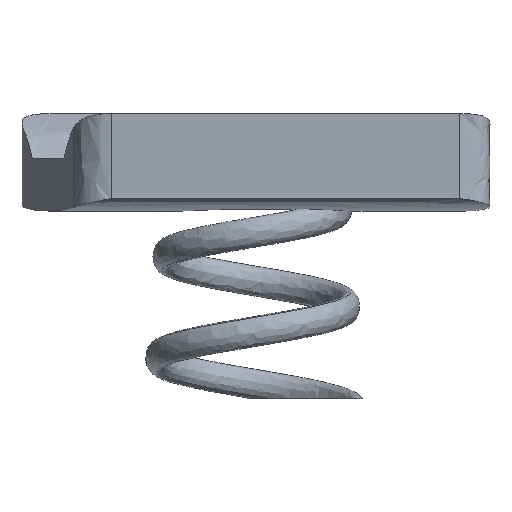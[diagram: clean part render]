
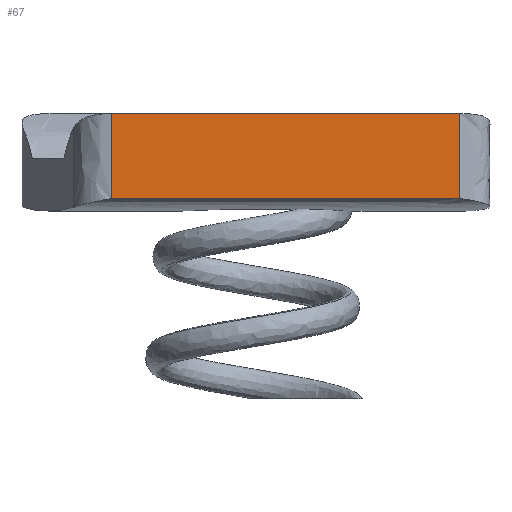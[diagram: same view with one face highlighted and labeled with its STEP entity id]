
A CAD part, front view. The second image highlights one B-rep face of the part: STEP entity #67.
In plain terms, the highlighted planar face has unit normal (0, -1, 0).
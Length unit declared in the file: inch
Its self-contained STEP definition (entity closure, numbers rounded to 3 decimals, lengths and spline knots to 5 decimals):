
#67=ADVANCED_FACE('',(#148),#149,.T.);
#148=FACE_OUTER_BOUND('',#273,.T.);
#149=PLANE('',#274);
#273=EDGE_LOOP('',(#1895,#1896,#1897,#1898));
#274=AXIS2_PLACEMENT_3D('',#1899,#1900,#1901);
#1895=ORIENTED_EDGE('',*,*,#2114,.T.);
#1896=ORIENTED_EDGE('',*,*,#2082,.T.);
#1897=ORIENTED_EDGE('',*,*,#2115,.F.);
#1898=ORIENTED_EDGE('',*,*,#2116,.F.);
#1899=CARTESIAN_POINT('',(-0.14909,0.,0.07114));
#1900=DIRECTION('',(0.,-1.0,-0.0));
#1901=DIRECTION('',(0.0,0.0,-1.0));
#2082=EDGE_CURVE('',#2200,#2198,#2201,.T.);
#2114=EDGE_CURVE('',#2253,#2200,#2254,.T.);
#2115=EDGE_CURVE('',#2255,#2198,#2256,.T.);
#2116=EDGE_CURVE('',#2253,#2255,#2257,.T.);
#2198=VERTEX_POINT('',#2385);
#2200=VERTEX_POINT('',#2398);
#2201=LINE('',#2399,#2400);
#2253=VERTEX_POINT('',#2564);
#2254=LINE('',#2565,#2566);
#2255=VERTEX_POINT('',#2567);
#2256=LINE('',#2568,#2569);
#2257=LINE('',#2570,#2571);
#2385=CARTESIAN_POINT('',(0.58063,0.,0.14228));
#2398=CARTESIAN_POINT('',(0.58063,0.,0.0));
#2399=CARTESIAN_POINT('',(0.58063,0.,-0.05009));
#2400=VECTOR('',#3123,1.0);
#2564=CARTESIAN_POINT('',(0.,0.,0.0));
#2565=CARTESIAN_POINT('',(-0.14909,0.,0.0));
#2566=VECTOR('',#3132,1.);
#2567=CARTESIAN_POINT('',(0.,0.,0.14228));
#2568=CARTESIAN_POINT('',(-0.14909,0.,0.14228));
#2569=VECTOR('',#3133,1.);
#2570=CARTESIAN_POINT('',(0.,0.,-0.05009));
#2571=VECTOR('',#3134,1.0);
#3123=DIRECTION('',(0.0,0.0,1.0));
#3132=DIRECTION('',(1.0,0.,0.0));
#3133=DIRECTION('',(1.0,0.,0.0));
#3134=DIRECTION('',(0.0,0.0,1.0));
